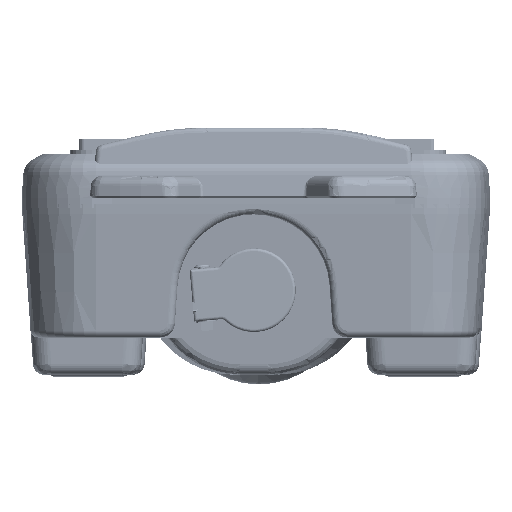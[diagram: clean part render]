
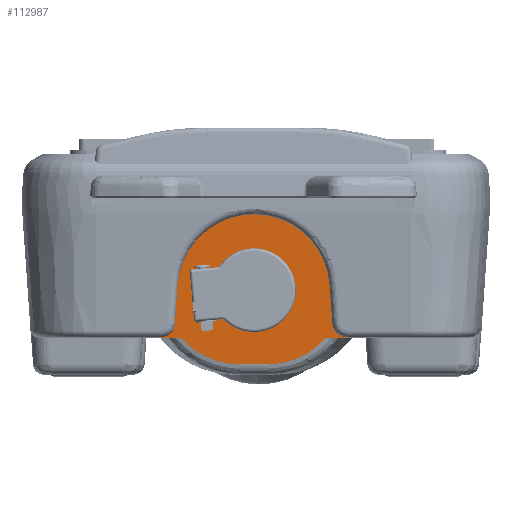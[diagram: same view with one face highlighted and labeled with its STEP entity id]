
A CAD part, left-side view. The second image highlights one B-rep face of the part: STEP entity #112987.
In plain terms, the highlighted planar face has unit normal (-0.998, 0.006, -0.07) as drawn and (-0.998, 0, 0.07) by its records, which use the part's own axes.
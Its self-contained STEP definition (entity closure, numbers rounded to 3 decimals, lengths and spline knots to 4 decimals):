
#1696=ELLIPSE('',#120667,0.1002,0.1);
#1697=ELLIPSE('',#120673,0.1002,0.1);
#1713=ELLIPSE('',#120807,0.5276,0.525);
#1714=ELLIPSE('',#120810,0.5276,0.525);
#4022=FACE_BOUND('',#19493,.T.);
#7107=PLANE('',#120811);
#12460=FACE_OUTER_BOUND('',#19492,.T.);
#19492=EDGE_LOOP('',(#81130,#81131,#81132,#81133,#81134,#81135,#81136,#81137,
#81138,#81139));
#19493=EDGE_LOOP('',(#81140));
#26182=LINE('',#164847,#36373);
#26186=LINE('',#164909,#36377);
#27170=LINE('',#173173,#37361);
#27173=LINE('',#173181,#37364);
#27237=LINE('',#174009,#37428);
#36373=VECTOR('',#131432,0.3937);
#36377=VECTOR('',#131436,0.3937);
#37361=VECTOR('',#134404,0.3937);
#37364=VECTOR('',#134413,0.3937);
#37428=VECTOR('',#134753,0.3937);
#46080=CIRCLE('',#119299,0.15);
#46453=CIRCLE('',#120670,0.5125);
#47995=VERTEX_POINT('',#162145);
#48636=VERTEX_POINT('',#164844);
#48637=VERTEX_POINT('',#164846);
#48644=VERTEX_POINT('',#164895);
#48645=VERTEX_POINT('',#164908);
#49692=VERTEX_POINT('',#173167);
#49693=VERTEX_POINT('',#173171);
#49694=VERTEX_POINT('',#173175);
#49695=VERTEX_POINT('',#173179);
#49739=VERTEX_POINT('',#174003);
#49740=VERTEX_POINT('',#174007);
#58667=EDGE_CURVE('',#47995,#47995,#46080,.T.);
#59477=EDGE_CURVE('',#48637,#48636,#26182,.T.);
#59485=EDGE_CURVE('',#48645,#48644,#26186,.T.);
#61168=EDGE_CURVE('',#49692,#48636,#1696,.F.);
#61170=EDGE_CURVE('',#49693,#49692,#27170,.T.);
#61172=EDGE_CURVE('',#49694,#49693,#46453,.T.);
#61174=EDGE_CURVE('',#49695,#49694,#27173,.T.);
#61175=EDGE_CURVE('',#48645,#49695,#1697,.F.);
#61300=EDGE_CURVE('',#48637,#49739,#1713,.T.);
#61302=EDGE_CURVE('',#49739,#49740,#27237,.T.);
#61303=EDGE_CURVE('',#49740,#48644,#1714,.T.);
#81130=ORIENTED_EDGE('',*,*,#61303,.F.);
#81131=ORIENTED_EDGE('',*,*,#61302,.F.);
#81132=ORIENTED_EDGE('',*,*,#61300,.F.);
#81133=ORIENTED_EDGE('',*,*,#59477,.T.);
#81134=ORIENTED_EDGE('',*,*,#61168,.F.);
#81135=ORIENTED_EDGE('',*,*,#61170,.F.);
#81136=ORIENTED_EDGE('',*,*,#61172,.F.);
#81137=ORIENTED_EDGE('',*,*,#61174,.F.);
#81138=ORIENTED_EDGE('',*,*,#61175,.F.);
#81139=ORIENTED_EDGE('',*,*,#59485,.T.);
#81140=ORIENTED_EDGE('',*,*,#58667,.T.);
#112987=ADVANCED_FACE('',(#12460,#4022),#7107,.T.);
#119299=AXIS2_PLACEMENT_3D('',#162146,#130191,#130192);
#120667=AXIS2_PLACEMENT_3D('',#173169,#134399,#134400);
#120670=AXIS2_PLACEMENT_3D('',#173177,#134408,#134409);
#120673=AXIS2_PLACEMENT_3D('',#173183,#134416,#134417);
#120807=AXIS2_PLACEMENT_3D('',#174005,#134747,#134748);
#120810=AXIS2_PLACEMENT_3D('',#174035,#134754,#134755);
#120811=AXIS2_PLACEMENT_3D('',#174036,#134756,#134757);
#130191=DIRECTION('center_axis',(0.998,0.,
-0.07));
#130192=DIRECTION('ref_axis',(0.,1.,0.));
#131432=DIRECTION('',(0.,1.,0.));
#131436=DIRECTION('',(0.,1.,0.));
#134399=DIRECTION('center_axis',(0.998,0.,
-0.07));
#134400=DIRECTION('ref_axis',(0.07,0.07,0.995));
#134404=DIRECTION('',(0.07,0.07,0.995));
#134408=DIRECTION('center_axis',(0.998,0.,
-0.07));
#134409=DIRECTION('ref_axis',(0.005,-0.998,0.07));
#134413=DIRECTION('',(-0.07,0.07,-0.995));
#134416=DIRECTION('center_axis',(0.998,0.,
-0.07));
#134417=DIRECTION('ref_axis',(0.07,-0.07,0.995));
#134747=DIRECTION('center_axis',(0.998,0.,
-0.07));
#134748=DIRECTION('ref_axis',(0.049,0.708,0.705));
#134753=DIRECTION('',(0.,-1.,0.));
#134754=DIRECTION('center_axis',(0.998,0.,
-0.07));
#134755=DIRECTION('ref_axis',(0.049,-0.708,0.705));
#134756=DIRECTION('center_axis',(-0.998,0.,
0.07));
#134757=DIRECTION('ref_axis',(0.,1.,0.));
#162145=CARTESIAN_POINT('',(-2.8408,-0.15,-0.3186));
#162146=CARTESIAN_POINT('Origin',(-2.8408,0.,
-0.3186));
#164844=CARTESIAN_POINT('',(-2.8185,0.6293,0.));
#164846=CARTESIAN_POINT('',(-2.8185,0.4886,0.));
#164847=CARTESIAN_POINT('',(-2.8185,0.2875,0.));
#164895=CARTESIAN_POINT('',(-2.8185,-0.4886,0.));
#164908=CARTESIAN_POINT('',(-2.8185,-0.6293,0.));
#164909=CARTESIAN_POINT('',(-2.8185,0.2875,0.));
#173167=CARTESIAN_POINT('',(-2.825,0.5296,-0.093));
#173169=CARTESIAN_POINT('Origin',(-2.8255,0.6293,-0.1));
#173171=CARTESIAN_POINT('',(-2.8433,0.5113,-0.3542));
#173173=CARTESIAN_POINT('',(-2.8433,0.5113,-0.3542));
#173175=CARTESIAN_POINT('',(-2.8433,-0.5113,-0.3542));
#173177=CARTESIAN_POINT('Origin',(-2.8408,0.,
-0.3186));
#173179=CARTESIAN_POINT('',(-2.825,-0.5296,-0.093));
#173181=CARTESIAN_POINT('',(-2.7491,-0.6057,0.9928));
#173183=CARTESIAN_POINT('Origin',(-2.8255,-0.6293,
-0.1));
#174003=CARTESIAN_POINT('',(-2.8059,0.0926,0.1802));
#174005=CARTESIAN_POINT('Origin',(-2.8426,0.09,
-0.3448));
#174007=CARTESIAN_POINT('',(-2.8059,-0.0926,0.1802));
#174009=CARTESIAN_POINT('',(-2.8059,0.2875,0.1802));
#174035=CARTESIAN_POINT('Origin',(-2.8426,-0.09,
-0.3448));
#174036=CARTESIAN_POINT('Origin',(-2.8185,0.575,0.));
